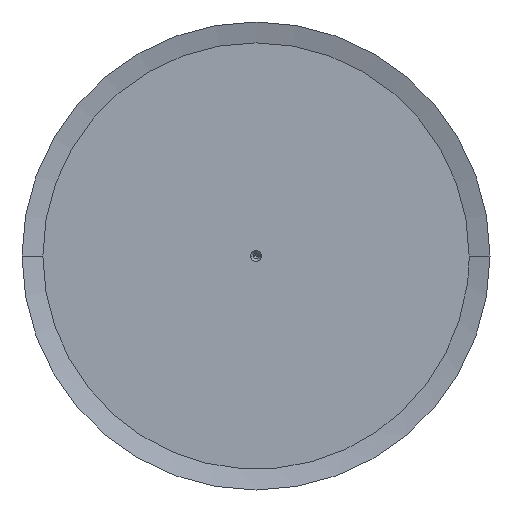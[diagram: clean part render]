
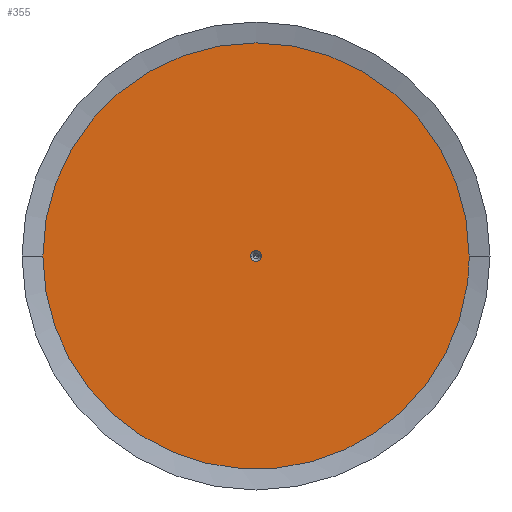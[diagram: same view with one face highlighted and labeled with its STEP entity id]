
A CAD part, left-side view. The second image highlights one B-rep face of the part: STEP entity #355.
In plain terms, the highlighted planar face has unit normal (-1, 0, 0).
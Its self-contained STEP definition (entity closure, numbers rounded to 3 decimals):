
#355=ADVANCED_FACE('',(#921,#922),#923,.T.);
#921=FACE_BOUND('',#1490,.T.);
#922=FACE_OUTER_BOUND('',#1491,.T.);
#923=PLANE('',#1492);
#1490=EDGE_LOOP('',(#3966,#3967));
#1491=EDGE_LOOP('',(#3968,#3969,#3970));
#1492=AXIS2_PLACEMENT_3D('',#3971,#3972,#3973);
#3966=ORIENTED_EDGE('',*,*,#4247,.T.);
#3967=ORIENTED_EDGE('',*,*,#4260,.T.);
#3968=ORIENTED_EDGE('',*,*,#4108,.T.);
#3969=ORIENTED_EDGE('',*,*,#4632,.T.);
#3970=ORIENTED_EDGE('',*,*,#4109,.T.);
#3971=CARTESIAN_POINT('',(0.0,0.0,0.0));
#3972=DIRECTION('',(-1.0,0.0,0.0));
#3973=DIRECTION('',(0.0,0.0,1.0));
#4108=EDGE_CURVE('',#5046,#5044,#5047,.T.);
#4109=EDGE_CURVE('',#5041,#5046,#5048,.T.);
#4247=EDGE_CURVE('',#5313,#5315,#5317,.T.);
#4260=EDGE_CURVE('',#5315,#5313,#5337,.T.);
#4632=EDGE_CURVE('',#5044,#5041,#5928,.T.);
#5041=VERTEX_POINT('',#6915);
#5044=VERTEX_POINT('',#6919);
#5046=VERTEX_POINT('',#6922);
#5047=CIRCLE('',#6923,76.5);
#5048=CIRCLE('',#6924,76.5);
#5313=VERTEX_POINT('',#7707);
#5315=VERTEX_POINT('',#7710);
#5317=CIRCLE('',#7713,2.0);
#5337=CIRCLE('',#7739,2.0);
#5928=CIRCLE('',#8934,76.5);
#6915=CARTESIAN_POINT('',(0.0,76.5,0.));
#6919=CARTESIAN_POINT('',(0.0,-76.5,0.));
#6922=CARTESIAN_POINT('',(0.0,-75.746,-10.711));
#6923=AXIS2_PLACEMENT_3D('',#9894,#9895,#9896);
#6924=AXIS2_PLACEMENT_3D('',#9897,#9898,#9899);
#7707=CARTESIAN_POINT('',(0.0,2.0,0.0));
#7710=CARTESIAN_POINT('',(0.0,-2.0,0.));
#7713=AXIS2_PLACEMENT_3D('',#10063,#10064,#10065);
#7739=AXIS2_PLACEMENT_3D('',#10090,#10091,#10092);
#8934=AXIS2_PLACEMENT_3D('',#10805,#10806,#10807);
#9894=CARTESIAN_POINT('',(0.0,0.0,0.0));
#9895=DIRECTION('',(-1.0,0.0,0.0));
#9896=DIRECTION('',(0.0,1.0,0.0));
#9897=CARTESIAN_POINT('',(0.0,0.0,0.0));
#9898=DIRECTION('',(-1.0,0.0,0.0));
#9899=DIRECTION('',(0.0,1.0,0.0));
#10063=CARTESIAN_POINT('',(0.0,0.0,0.0));
#10064=DIRECTION('',(1.0,0.0,0.0));
#10065=DIRECTION('',(0.0,1.0,0.0));
#10090=CARTESIAN_POINT('',(0.0,0.0,0.0));
#10091=DIRECTION('',(1.0,0.0,0.0));
#10092=DIRECTION('',(0.0,1.0,0.0));
#10805=CARTESIAN_POINT('',(0.0,0.0,0.0));
#10806=DIRECTION('',(-1.0,0.0,0.0));
#10807=DIRECTION('',(0.0,1.0,0.0));
